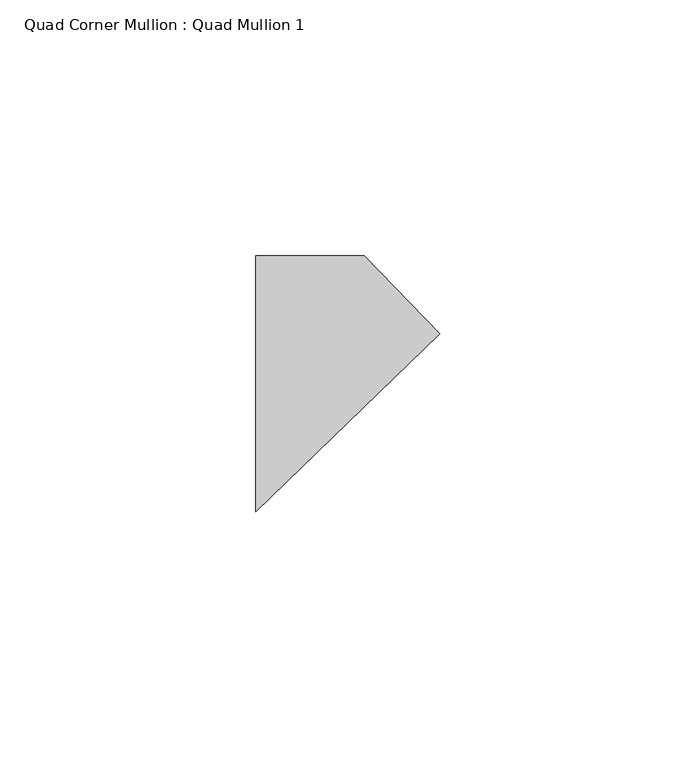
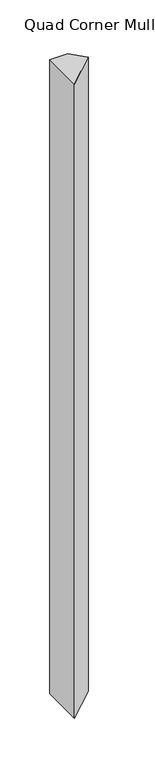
"""IFC4 building model written with IfcOpenShell, lengths in millimetres: member geometry, Quad Corner Mullion : Quad Mullion 1."""

import ifcopenshell
import ifcopenshell.guid

model = None  # the IFC model being written
_history = None  # IfcOwnerHistory: only IFC2X3 demands one
_inside = {}  # id of a spatial element -> (the spatial element, [elements in it])
_under = {}  # id of a project, library or spatial element -> (it, [spatial elements below it])
_declared = {}  # id of a project -> (the project, [libraries it declares])
_typed = {}  # id of a type object -> (the type object, [elements of that type])
_made_of = {}  # id of a material, layer set ... -> (it, [elements and type objects made of it])


def new_model(schema):
    """Start an empty IFC model of exactly this schema.

    Asked for "IFC4X3", IfcOpenShell would pick the latest addendum, in which some entities
    have other attributes; the version numbers below select the first issue.
    IFC2X3 requires an IfcOwnerHistory on every rooted entity: one is made here for all.
    """
    global model, _history
    if schema == "IFC4X3":
        model = ifcopenshell.file(schema_version=(4, 3, 0, 0))
    else:
        model = ifcopenshell.file(schema=schema)
    _inside.clear()
    _under.clear()
    _declared.clear()
    _typed.clear()
    _made_of.clear()
    _history = None
    if model.schema == "IFC2X3":
        org = make("IfcOrganization", Name="unknown")
        user = make(
            "IfcPersonAndOrganization",
            ThePerson=make("IfcPerson", FamilyName="unknown"),
            TheOrganization=org,
        )
        app = make(
            "IfcApplication",
            ApplicationDeveloper=org,
            Version="unknown",
            ApplicationFullName="unknown",
            ApplicationIdentifier="unknown",
        )
        _history = make(
            "IfcOwnerHistory",
            OwningUser=user,
            OwningApplication=app,
            ChangeAction="ADDED",
            CreationDate=0,
        )
    return model


def make(cls, **values):
    """One entity of the class cls with the attributes given. An attribute that is None is left unset."""
    return model.create_entity(
        cls, **{name: value for name, value in values.items() if value is not None}
    )


def rooted(cls, **values):
    """An entity with a GlobalId (a new one), such as an element, a storey or a relation."""
    return make(cls, GlobalId=ifcopenshell.guid.new(), OwnerHistory=_history, **values)


def si_unit(unit_type, name, prefix=None):
    """IfcSIUnit, for example si_unit("LENGTHUNIT", "METRE", prefix="MILLI")."""
    return make("IfcSIUnit", UnitType=unit_type, Prefix=prefix, Name=name)


def assignment(units):
    """IfcUnitAssignment: the units of a project."""
    return None if units is None else make("IfcUnitAssignment", Units=units)


def point(xyz):
    """IfcCartesianPoint."""
    return None if xyz is None else make("IfcCartesianPoint", Coordinates=xyz)


def direction(xyz):
    """IfcDirection."""
    return None if xyz is None else make("IfcDirection", DirectionRatios=xyz)


def frame(location, z_axis=None, x_axis=None):
    """IfcAxis2Placement3D, a coordinate frame: its origin and axes. An axis left out is left unset."""
    return make(
        "IfcAxis2Placement3D",
        Location=point(location),
        Axis=direction(z_axis),
        RefDirection=direction(x_axis),
    )


def origin():
    """The frame at (0, 0, 0) with its axes left unset."""
    return frame((0.0, 0.0, 0.0))


def place(relative_to, where):
    """IfcLocalPlacement: puts the frame where relative to a parent placement (None: the world)."""
    return make(
        "IfcLocalPlacement", PlacementRelTo=relative_to, RelativePlacement=where
    )


def context(
    kind, dimensions, precision=None, world=None, true_north=None, identifier=None
):
    """IfcGeometricRepresentationContext, for example the 3D "Model" context."""
    return make(
        "IfcGeometricRepresentationContext",
        ContextIdentifier=identifier,
        ContextType=kind,
        CoordinateSpaceDimension=dimensions,
        Precision=precision,
        WorldCoordinateSystem=world,
        TrueNorth=true_north,
    )


def project(units=None, contexts=None):
    """IfcProject with its units and contexts."""
    return rooted(
        "IfcProject",
        Name="project",
        RepresentationContexts=contexts,
        UnitsInContext=assignment(units),
    )


def spatial(cls, under=None, at=None, **own):
    """A site, building, storey or space (cls), placed at a placement, below another one or the project."""
    s = rooted(cls, ObjectPlacement=at, **own)
    if under is not None:
        _under.setdefault(under.id(), (under, []))[1].append(s)
    return s


def polyline(points):
    """IfcPolyline through the points."""
    return make("IfcPolyline", Points=[point(p) for p in points])


def outline(outer, holes=None, kind="AREA"):
    """IfcArbitraryClosedProfileDef: a profile drawn as a closed curve; with holes, ...WithVoids."""
    if holes is None:
        return make("IfcArbitraryClosedProfileDef", ProfileType=kind, OuterCurve=outer)
    return make(
        "IfcArbitraryProfileDefWithVoids",
        ProfileType=kind,
        OuterCurve=outer,
        InnerCurves=holes,
    )


def extrude(swept, where, along, depth):
    """IfcExtrudedAreaSolid: the profile swept, set in the frame where, extruded along a direction by depth."""
    return make(
        "IfcExtrudedAreaSolid",
        SweptArea=swept,
        Position=where,
        ExtrudedDirection=direction(along),
        Depth=depth,
    )


def shape(context_of_items, identifier, shape_type, items):
    """IfcShapeRepresentation: the items that make up one representation, for example the "Body"."""
    return make(
        "IfcShapeRepresentation",
        ContextOfItems=context_of_items,
        RepresentationIdentifier=identifier,
        RepresentationType=shape_type,
        Items=items,
    )


def source(mapping_origin, context_of_items, identifier, shape_type, items):
    """IfcRepresentationMap: a shape defined once, which mapped items show again and again."""
    return make(
        "IfcRepresentationMap",
        MappingOrigin=mapping_origin,
        MappedRepresentation=shape(context_of_items, identifier, shape_type, items),
    )


def transform(
    local_origin,
    x_axis=None,
    y_axis=None,
    z_axis=None,
    scale=None,
    scale2=None,
    scale3=None,
    uniform=True,
):
    """IfcCartesianTransformationOperator3D, or its non-uniform kind. x_axis, y_axis, z_axis: its Axis1, 2, 3."""
    if uniform:
        return make(
            "IfcCartesianTransformationOperator3D",
            Axis1=direction(x_axis),
            Axis2=direction(y_axis),
            LocalOrigin=point(local_origin),
            Scale=scale,
            Axis3=direction(z_axis),
        )
    return make(
        "IfcCartesianTransformationOperator3DnonUniform",
        Axis1=direction(x_axis),
        Axis2=direction(y_axis),
        LocalOrigin=point(local_origin),
        Scale=scale,
        Axis3=direction(z_axis),
        Scale2=scale2,
        Scale3=scale3,
    )


def mapped(mapping_source, mapping_target):
    """IfcMappedItem: shows the shape of a source again, moved by a transform."""
    return make(
        "IfcMappedItem", MappingSource=mapping_source, MappingTarget=mapping_target
    )


def made_of(thing, what):
    """Note that an element or type object is made of a material, layer set ...; save() writes the relation."""
    if what is not None:
        _made_of.setdefault(what.id(), (what, []))[1].append(thing)
    return thing


def element(
    cls,
    number,
    at=None,
    inside=None,
    cuts=None,
    type_object=None,
    material=None,
    context=None,
    identifier="Body",
    shape_type=None,
    held_by="IfcProductDefinitionShape",
    body=None,
    shapes=None,
    **own,
):
    """One element of the class cls, such as IfcWall. Its Tag is "e" and its number.

    at: its placement. inside: the storey or other place that contains it. cuts: it is an
    opening in that element (IfcRelVoidsElement). A single representation is given by context,
    identifier, shape_type and body (its items); several are given by shapes. held_by: the class
    of the entity that holds the representations. save() writes the other relations.
    """
    e = rooted(cls, Tag="e%d" % number, ObjectPlacement=at, **own)
    if body is not None:
        shapes = [shape(context, identifier, shape_type, body)]
    if shapes is not None:
        e.Representation = make(held_by, Representations=shapes)
    if inside is not None:
        _inside.setdefault(inside.id(), (inside, []))[1].append(e)
    if cuts is not None:
        rooted(
            "IfcRelVoidsElement", RelatingBuildingElement=cuts, RelatedOpeningElement=e
        )
    if type_object is not None:
        _typed.setdefault(type_object.id(), (type_object, []))[1].append(e)
    return made_of(e, material)


def aggregate(whole, parts):
    """IfcRelAggregates: a whole, such as a stair, and the parts it consists of."""
    return rooted("IfcRelAggregates", RelatingObject=whole, RelatedObjects=parts)


def save(model, path):
    """Write the relations noted so far, then the file.

    IfcRelAggregates (storeys below a building ...), IfcRelContainedInSpatialStructure (elements
    in a storey), IfcRelDefinesByType, IfcRelAssociatesMaterial and IfcRelDeclares: one each for
    every whole, place, type object, material and project.
    """
    for whole, parts in _under.values():
        aggregate(whole, parts)
    for where, things in _inside.values():
        rooted(
            "IfcRelContainedInSpatialStructure",
            RelatedElements=things,
            RelatingStructure=where,
        )
    for kind, things in _typed.values():
        rooted("IfcRelDefinesByType", RelatedObjects=things, RelatingType=kind)
    for what, things in _made_of.values():
        rooted("IfcRelAssociatesMaterial", RelatedObjects=things, RelatingMaterial=what)
    for by, libraries in _declared.values():
        rooted("IfcRelDeclares", RelatingContext=by, RelatedDefinitions=libraries)
    model.write(path)


def quad_corner_mullion_quad_mullion_1_44705dba(model_context):
    return source(origin(), model_context, "Body", "SweptSolid", [
        extrude(outline(polyline([(25.3551196, 9.7329185), (-10.6118704, -25.0), (-10.6118704, 25.0), (10.6118704, 25.0), (25.3551196, 9.7329185)])), frame((0.0, 0.0, -780.0), z_axis=(0.0, 0.0, 1.0), x_axis=(1.0, 0.0, 0.0)), (0.0, 0.0, 1.0), 780.0),
    ])


if __name__ == "__main__":
    model = new_model("IFC4")
    model_context = context("Model", 3, world=origin())
    ifc_project = project(units=[si_unit("LENGTHUNIT", "METRE", prefix="MILLI")], contexts=[model_context])
    site = spatial("IfcSite", under=ifc_project)
    building = spatial("IfcBuilding", under=site)
    placement = place(None, origin())
    quad_corner_mullion_quad_mullion_1_shape = quad_corner_mullion_quad_mullion_1_44705dba(model_context)
    element("IfcMember", 1, ObjectType="Quad Corner Mullion : Quad Mullion 1", at=placement, inside=building, context=model_context, shape_type="MappedRepresentation", body=[
        mapped(quad_corner_mullion_quad_mullion_1_shape, transform((0.0, 0.0, 0.0), x_axis=(1.0, 0.0, 0.0), y_axis=(0.0, 1.0, 0.0), z_axis=(0.0, 0.0, 1.0))),
    ])
    save(model, "model.ifc")
